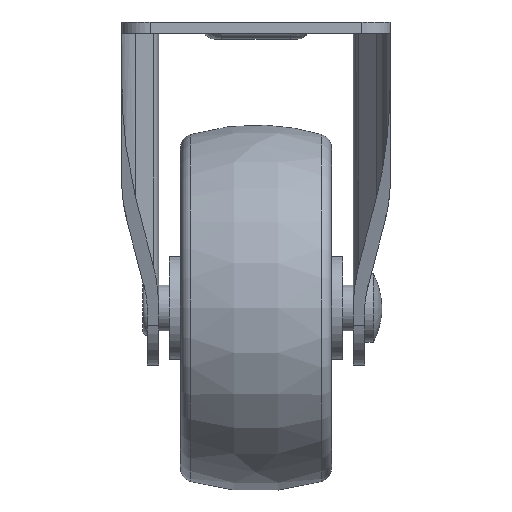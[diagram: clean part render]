
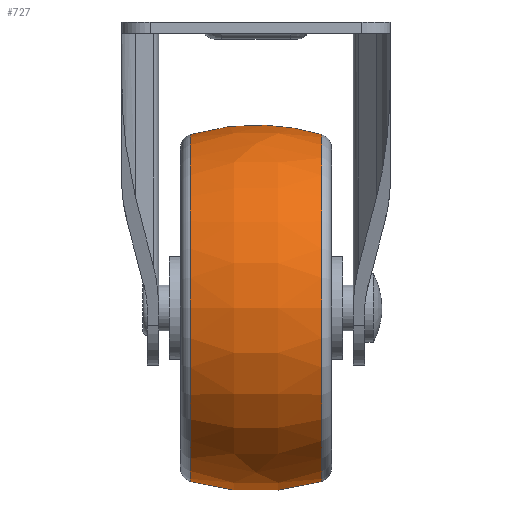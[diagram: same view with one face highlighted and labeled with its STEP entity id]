
A CAD part, left-side view. The second image highlights one B-rep face of the part: STEP entity #727.
In plain terms, the highlighted free-form (B-spline) face has degree [3, 3] with [4, 7] control points.
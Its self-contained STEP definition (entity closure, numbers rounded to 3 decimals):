
#60=(
BOUNDED_SURFACE()
B_SPLINE_SURFACE(3,3,((#10439,#10440,#10441,#10442,#10443,#10444,#10445),
(#10446,#10447,#10448,#10449,#10450,#10451,#10452),(#10453,#10454,#10455,
#10456,#10457,#10458,#10459),(#10460,#10461,#10462,#10463,#10464,#10465,
#10466)),.UNSPECIFIED.,.F.,.T.,.F.)
B_SPLINE_SURFACE_WITH_KNOTS((4,4),(1,3,3,3,1),(0.,1.),(-0.5,0.,0.5,1.,1.5),
 .UNSPECIFIED.)
GEOMETRIC_REPRESENTATION_ITEM()
RATIONAL_B_SPLINE_SURFACE(((1.,0.333,0.333,1.,0.333,
0.333,1.),(0.972,0.324,0.324,
0.972,0.324,0.324,0.972),
(0.972,0.324,0.324,0.972,
0.324,0.324,0.972),(1.,0.333,
0.333,1.,0.333,0.333,1.)))
REPRESENTATION_ITEM('')
SURFACE()
);
#727=ADVANCED_FACE('',(#2062,#2063),#60,.T.);
#2062=FACE_BOUND('',#2417,.T.);
#2063=FACE_BOUND('',#2418,.T.);
#2417=EDGE_LOOP('',(#3989));
#2418=EDGE_LOOP('',(#3990));
#3989=ORIENTED_EDGE('',*,*,#5501,.T.);
#3990=ORIENTED_EDGE('',*,*,#5496,.T.);
#4684=VERTEX_POINT('',#10424);
#4689=VERTEX_POINT('',#10436);
#5496=EDGE_CURVE('',#4684,#4684,#5665,.T.);
#5501=EDGE_CURVE('',#4689,#4689,#5670,.T.);
#5665=CIRCLE('',#6141,30.314);
#5670=CIRCLE('',#6148,30.314);
#6141=AXIS2_PLACEMENT_3D('',#10423,#7470,#7471);
#6148=AXIS2_PLACEMENT_3D('',#10435,#7484,#7485);
#7470=DIRECTION('',(0.,-1.,0.));
#7471=DIRECTION('',(0.,0.,-1.));
#7484=DIRECTION('',(0.,1.,0.));
#7485=DIRECTION('',(0.,0.,1.));
#10423=CARTESIAN_POINT('',(0.,11.489,-50.));
#10424=CARTESIAN_POINT('',(0.,11.489,-80.314));
#10435=CARTESIAN_POINT('',(0.,-11.489,-50.));
#10436=CARTESIAN_POINT('',(0.,-11.489,-19.686));
#10439=CARTESIAN_POINT('',(0.,11.489,-19.686));
#10440=CARTESIAN_POINT('',(60.629,11.489,-19.686));
#10441=CARTESIAN_POINT('',(60.629,11.489,-80.314));
#10442=CARTESIAN_POINT('',(0.,11.489,-80.314));
#10443=CARTESIAN_POINT('',(-60.629,11.489,-80.314));
#10444=CARTESIAN_POINT('',(-60.629,11.489,-19.686));
#10445=CARTESIAN_POINT('',(0.,11.489,-19.686));
#10446=CARTESIAN_POINT('',(0.,3.94,-17.422));
#10447=CARTESIAN_POINT('',(65.156,3.94,-17.422));
#10448=CARTESIAN_POINT('',(65.156,3.94,-82.578));
#10449=CARTESIAN_POINT('',(0.,3.94,-82.578));
#10450=CARTESIAN_POINT('',(-65.156,3.94,-82.578));
#10451=CARTESIAN_POINT('',(-65.156,3.94,-17.422));
#10452=CARTESIAN_POINT('',(0.,3.94,-17.422));
#10453=CARTESIAN_POINT('',(0.,-3.94,-17.422));
#10454=CARTESIAN_POINT('',(65.156,-3.94,-17.422));
#10455=CARTESIAN_POINT('',(65.156,-3.94,-82.578));
#10456=CARTESIAN_POINT('',(0.,-3.94,-82.578));
#10457=CARTESIAN_POINT('',(-65.156,-3.94,-82.578));
#10458=CARTESIAN_POINT('',(-65.156,-3.94,-17.422));
#10459=CARTESIAN_POINT('',(0.,-3.94,-17.422));
#10460=CARTESIAN_POINT('',(0.,-11.489,-19.686));
#10461=CARTESIAN_POINT('',(60.629,-11.489,-19.686));
#10462=CARTESIAN_POINT('',(60.629,-11.489,-80.314));
#10463=CARTESIAN_POINT('',(0.,-11.489,-80.314));
#10464=CARTESIAN_POINT('',(-60.629,-11.489,-80.314));
#10465=CARTESIAN_POINT('',(-60.629,-11.489,-19.686));
#10466=CARTESIAN_POINT('',(0.,-11.489,-19.686));
